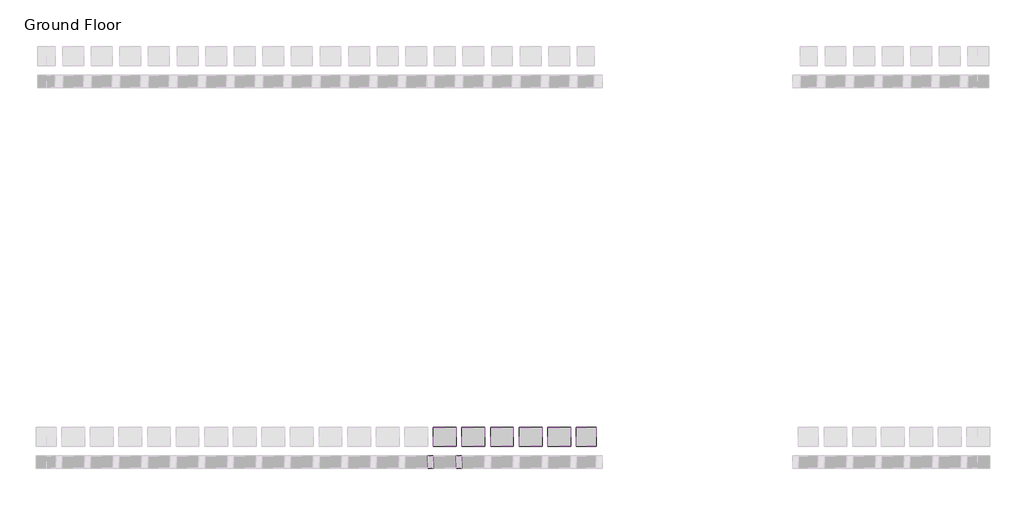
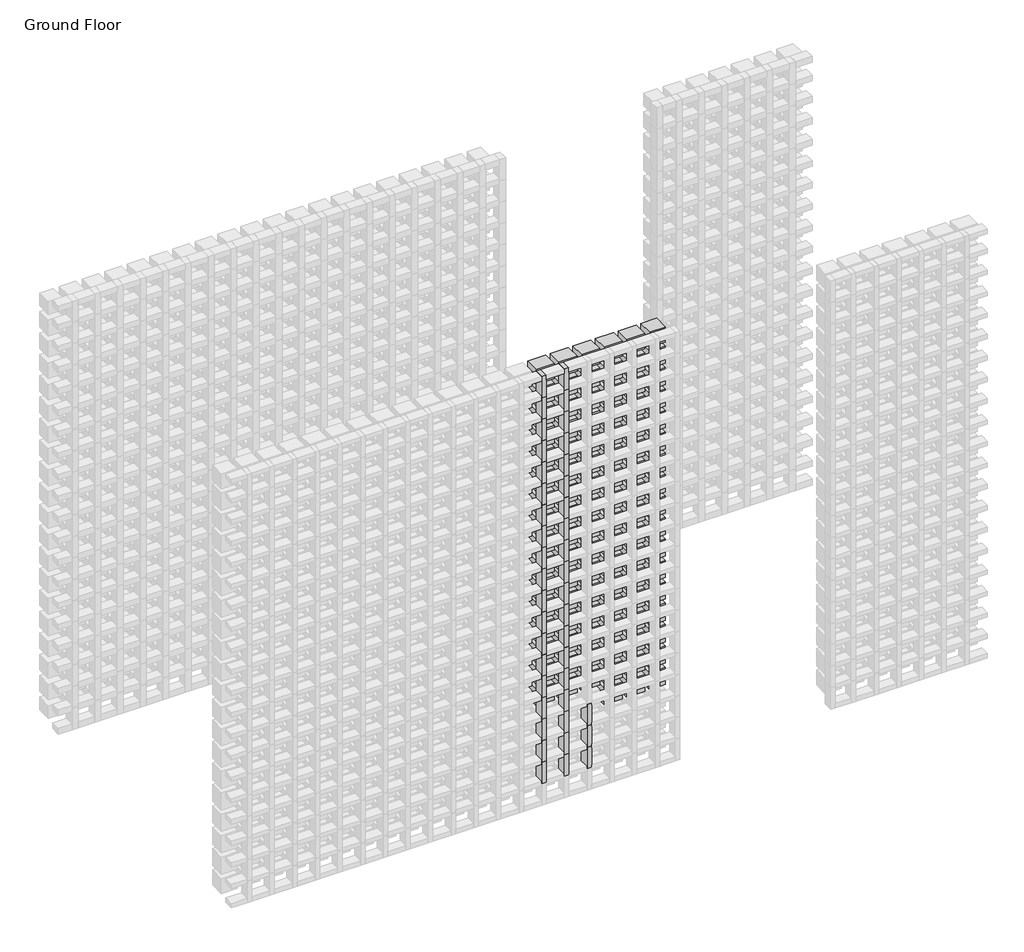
# One storey, part 71 of 350: 99 plates, 41 members.
"""IFC4 building model written with IfcOpenShell, lengths in millimetres."""

from ifc_helpers import new_model, si_unit, origin, place, context, project, spatial, transform, mapped, element, save
from components import rectangular_mullion_5b501421, empty_system_panel_empty_a57e421f, empty_system_panel_empty_fe50b430, empty_system_panel_empty_3353a095, empty_system_panel_empty_0cf761f0

model = new_model("IFC4")

# Units and contexts
model_context = context("Model", 3, world=origin())
ifc_project = project(units=[si_unit("LENGTHUNIT", "METRE", prefix="MILLI")], contexts=[model_context])

# Site, building, storey
site = spatial("IfcSite", under=ifc_project)
building = spatial("IfcBuilding", under=site)
storey = spatial("IfcBuildingStorey", under=building, Name="Ground Floor", Elevation=0.0)

# Members
placement = place(None, origin())
rectangular_mullion_shape = rectangular_mullion_5b501421(model_context)
element("IfcMember", 1, ObjectType="Rectangular Mullion : Batten_Timber_Modinex_Austratus_Grid_Fascia_30x65_Hemlock", at=placement, inside=storey, context=model_context, shape_type="MappedRepresentation", body=[
    mapped(rectangular_mullion_shape, transform((12016.4361642, 38968.2978302, 150.0), x_axis=(1.0, 0.0, 0.0), y_axis=(0.0, -1.0, 0.0), z_axis=(0.0, 0.0, -1.0))),
])
element("IfcMember", 2, ObjectType="Rectangular Mullion : Batten_Timber_Modinex_Austratus_Grid_Fascia_30x65_Hemlock", at=placement, inside=storey, context=model_context, shape_type="MappedRepresentation", body=[
    mapped(rectangular_mullion_shape, transform((12016.4361642, 38968.2978302, 300.0), x_axis=(1.0, 0.0, 0.0), y_axis=(0.0, -1.0, 0.0), z_axis=(0.0, 0.0, -1.0))),
])
element("IfcMember", 3, ObjectType="Rectangular Mullion : Batten_Timber_Modinex_Austratus_Grid_Fascia_30x65_Hemlock", at=placement, inside=storey, context=model_context, shape_type="MappedRepresentation", body=[
    mapped(rectangular_mullion_shape, transform((12016.4361642, 38968.2978302, 450.0), x_axis=(1.0, 0.0, 0.0), y_axis=(0.0, -1.0, 0.0), z_axis=(0.0, 0.0, -1.0))),
])
element("IfcMember", 4, ObjectType="Rectangular Mullion : Batten_Timber_Modinex_Austratus_Grid_Fascia_30x65_Hemlock", at=placement, inside=storey, context=model_context, shape_type="MappedRepresentation", body=[
    mapped(rectangular_mullion_shape, transform((12016.4361642, 38968.2978302, 600.0), x_axis=(1.0, 0.0, 0.0), y_axis=(0.0, -1.0, 0.0), z_axis=(0.0, 0.0, -1.0))),
])
element("IfcMember", 5, ObjectType="Rectangular Mullion : Batten_Timber_Modinex_Austratus_Grid_Fascia_30x65_Hemlock", at=placement, inside=storey, context=model_context, shape_type="MappedRepresentation", body=[
    mapped(rectangular_mullion_shape, transform((12016.4361642, 38968.2978302, 750.0), x_axis=(1.0, 0.0, 0.0), y_axis=(0.0, -1.0, 0.0), z_axis=(0.0, 0.0, -1.0))),
])
element("IfcMember", 6, ObjectType="Rectangular Mullion : Batten_Timber_Modinex_Austratus_Grid_Fascia_30x65_Hemlock", at=placement, inside=storey, context=model_context, shape_type="MappedRepresentation", body=[
    mapped(rectangular_mullion_shape, transform((12016.4361642, 38968.2978302, 900.0), x_axis=(1.0, 0.0, 0.0), y_axis=(0.0, -1.0, 0.0), z_axis=(0.0, 0.0, -1.0))),
])
element("IfcMember", 7, ObjectType="Rectangular Mullion : Batten_Timber_Modinex_Austratus_Grid_Fascia_30x65_Hemlock", at=placement, inside=storey, context=model_context, shape_type="MappedRepresentation", body=[
    mapped(rectangular_mullion_shape, transform((12016.4361642, 38968.2978302, 1050.0), x_axis=(1.0, 0.0, 0.0), y_axis=(0.0, -1.0, 0.0), z_axis=(0.0, 0.0, -1.0))),
])
element("IfcMember", 8, ObjectType="Rectangular Mullion : Batten_Timber_Modinex_Austratus_Grid_Fascia_30x65_Hemlock", at=placement, inside=storey, context=model_context, shape_type="MappedRepresentation", body=[
    mapped(rectangular_mullion_shape, transform((12016.4361642, 38968.2978302, 1200.0), x_axis=(1.0, 0.0, 0.0), y_axis=(0.0, -1.0, 0.0), z_axis=(0.0, 0.0, -1.0))),
])
element("IfcMember", 9, ObjectType="Rectangular Mullion : Batten_Timber_Modinex_Austratus_Grid_Fascia_30x65_Hemlock", at=placement, inside=storey, context=model_context, shape_type="MappedRepresentation", body=[
    mapped(rectangular_mullion_shape, transform((12016.4361642, 38968.2978302, 1350.0), x_axis=(1.0, 0.0, 0.0), y_axis=(0.0, -1.0, 0.0), z_axis=(0.0, 0.0, -1.0))),
])
element("IfcMember", 10, ObjectType="Rectangular Mullion : Batten_Timber_Modinex_Austratus_Grid_Fascia_30x65_Hemlock", at=placement, inside=storey, context=model_context, shape_type="MappedRepresentation", body=[
    mapped(rectangular_mullion_shape, transform((12016.4361642, 38968.2978302, 1500.0), x_axis=(1.0, 0.0, 0.0), y_axis=(0.0, -1.0, 0.0), z_axis=(0.0, 0.0, -1.0))),
])
element("IfcMember", 11, ObjectType="Rectangular Mullion : Batten_Timber_Modinex_Austratus_Grid_Fascia_30x65_Hemlock", at=placement, inside=storey, context=model_context, shape_type="MappedRepresentation", body=[
    mapped(rectangular_mullion_shape, transform((12016.4361642, 38968.2978302, 1650.0), x_axis=(1.0, 0.0, 0.0), y_axis=(0.0, -1.0, 0.0), z_axis=(0.0, 0.0, -1.0))),
])
element("IfcMember", 12, ObjectType="Rectangular Mullion : Batten_Timber_Modinex_Austratus_Grid_Fascia_30x65_Hemlock", at=placement, inside=storey, context=model_context, shape_type="MappedRepresentation", body=[
    mapped(rectangular_mullion_shape, transform((12016.4361642, 38968.2978302, 1800.0), x_axis=(1.0, 0.0, 0.0), y_axis=(0.0, -1.0, 0.0), z_axis=(0.0, 0.0, -1.0))),
])
element("IfcMember", 13, ObjectType="Rectangular Mullion : Batten_Timber_Modinex_Austratus_Grid_Fascia_30x65_Hemlock", at=placement, inside=storey, context=model_context, shape_type="MappedRepresentation", body=[
    mapped(rectangular_mullion_shape, transform((12016.4361642, 38968.2978302, 1950.0), x_axis=(1.0, 0.0, 0.0), y_axis=(0.0, -1.0, 0.0), z_axis=(0.0, 0.0, -1.0))),
])
element("IfcMember", 14, ObjectType="Rectangular Mullion : Batten_Timber_Modinex_Austratus_Grid_Fascia_30x65_Hemlock", at=placement, inside=storey, context=model_context, shape_type="MappedRepresentation", body=[
    mapped(rectangular_mullion_shape, transform((12016.4361642, 38968.2978302, 2100.0), x_axis=(1.0, 0.0, 0.0), y_axis=(0.0, -1.0, 0.0), z_axis=(0.0, 0.0, -1.0))),
])
element("IfcMember", 15, ObjectType="Rectangular Mullion : Batten_Timber_Modinex_Austratus_Grid_Fascia_30x65_Hemlock", at=placement, inside=storey, context=model_context, shape_type="MappedRepresentation", body=[
    mapped(rectangular_mullion_shape, transform((12016.4361642, 38968.2978302, 2250.0), x_axis=(1.0, 0.0, 0.0), y_axis=(0.0, -1.0, 0.0), z_axis=(0.0, 0.0, -1.0))),
])
element("IfcMember", 16, ObjectType="Rectangular Mullion : Batten_Timber_Modinex_Austratus_Grid_Fascia_30x65_Hemlock", at=placement, inside=storey, context=model_context, shape_type="MappedRepresentation", body=[
    mapped(rectangular_mullion_shape, transform((12016.4361642, 38968.2978302, 2400.0), x_axis=(1.0, 0.0, 0.0), y_axis=(0.0, -1.0, 0.0), z_axis=(0.0, 0.0, -1.0))),
])
element("IfcMember", 17, ObjectType="Rectangular Mullion : Batten_Timber_Modinex_Austratus_Grid_Fascia_30x65_Hemlock", at=placement, inside=storey, context=model_context, shape_type="MappedRepresentation", body=[
    mapped(rectangular_mullion_shape, transform((12016.4361642, 38968.2978302, 2550.0), x_axis=(1.0, 0.0, 0.0), y_axis=(0.0, -1.0, 0.0), z_axis=(0.0, 0.0, -1.0))),
])
element("IfcMember", 18, ObjectType="Rectangular Mullion : Batten_Timber_Modinex_Austratus_Grid_Fascia_30x65_Hemlock", at=placement, inside=storey, context=model_context, shape_type="MappedRepresentation", body=[
    mapped(rectangular_mullion_shape, transform((12016.4361642, 38968.2978302, 2700.0), x_axis=(1.0, 0.0, 0.0), y_axis=(0.0, -1.0, 0.0), z_axis=(0.0, 0.0, -1.0))),
])
element("IfcMember", 19, ObjectType="Rectangular Mullion : Batten_Timber_Modinex_Austratus_Grid_Fascia_30x65_Hemlock", at=placement, inside=storey, context=model_context, shape_type="MappedRepresentation", body=[
    mapped(rectangular_mullion_shape, transform((12166.4361642, 38968.2978302, 150.0), x_axis=(1.0, 0.0, 0.0), y_axis=(0.0, -1.0, 0.0), z_axis=(0.0, 0.0, -1.0))),
])
element("IfcMember", 20, ObjectType="Rectangular Mullion : Batten_Timber_Modinex_Austratus_Grid_Fascia_30x65_Hemlock", at=placement, inside=storey, context=model_context, shape_type="MappedRepresentation", body=[
    mapped(rectangular_mullion_shape, transform((12166.4361642, 38968.2978302, 300.0), x_axis=(1.0, 0.0, 0.0), y_axis=(0.0, -1.0, 0.0), z_axis=(0.0, 0.0, -1.0))),
])
element("IfcMember", 21, ObjectType="Rectangular Mullion : Batten_Timber_Modinex_Austratus_Grid_Fascia_30x65_Hemlock", at=placement, inside=storey, context=model_context, shape_type="MappedRepresentation", body=[
    mapped(rectangular_mullion_shape, transform((12166.4361642, 38968.2978302, 450.0), x_axis=(1.0, 0.0, 0.0), y_axis=(0.0, -1.0, 0.0), z_axis=(0.0, 0.0, -1.0))),
])
element("IfcMember", 22, ObjectType="Rectangular Mullion : Batten_Timber_Modinex_Austratus_Grid_Fascia_30x65_Hemlock", at=placement, inside=storey, context=model_context, shape_type="MappedRepresentation", body=[
    mapped(rectangular_mullion_shape, transform((12166.4361642, 38968.2978302, 600.0), x_axis=(1.0, 0.0, 0.0), y_axis=(0.0, -1.0, 0.0), z_axis=(0.0, 0.0, -1.0))),
])
element("IfcMember", 23, ObjectType="Rectangular Mullion : Batten_Timber_Modinex_Austratus_Grid_Fascia_30x65_Hemlock", at=placement, inside=storey, context=model_context, shape_type="MappedRepresentation", body=[
    mapped(rectangular_mullion_shape, transform((12166.4361642, 38968.2978302, 750.0), x_axis=(1.0, 0.0, 0.0), y_axis=(0.0, -1.0, 0.0), z_axis=(0.0, 0.0, -1.0))),
])
element("IfcMember", 24, ObjectType="Rectangular Mullion : Batten_Timber_Modinex_Austratus_Grid_Fascia_30x65_Hemlock", at=placement, inside=storey, context=model_context, shape_type="MappedRepresentation", body=[
    mapped(rectangular_mullion_shape, transform((12166.4361642, 38968.2978302, 900.0), x_axis=(1.0, 0.0, 0.0), y_axis=(0.0, -1.0, 0.0), z_axis=(0.0, 0.0, -1.0))),
])
element("IfcMember", 25, ObjectType="Rectangular Mullion : Batten_Timber_Modinex_Austratus_Grid_Fascia_30x65_Hemlock", at=placement, inside=storey, context=model_context, shape_type="MappedRepresentation", body=[
    mapped(rectangular_mullion_shape, transform((12166.4361642, 38968.2978302, 1050.0), x_axis=(1.0, 0.0, 0.0), y_axis=(0.0, -1.0, 0.0), z_axis=(0.0, 0.0, -1.0))),
])
element("IfcMember", 26, ObjectType="Rectangular Mullion : Batten_Timber_Modinex_Austratus_Grid_Fascia_30x65_Hemlock", at=placement, inside=storey, context=model_context, shape_type="MappedRepresentation", body=[
    mapped(rectangular_mullion_shape, transform((12166.4361642, 38968.2978302, 1200.0), x_axis=(1.0, 0.0, 0.0), y_axis=(0.0, -1.0, 0.0), z_axis=(0.0, 0.0, -1.0))),
])
element("IfcMember", 27, ObjectType="Rectangular Mullion : Batten_Timber_Modinex_Austratus_Grid_Fascia_30x65_Hemlock", at=placement, inside=storey, context=model_context, shape_type="MappedRepresentation", body=[
    mapped(rectangular_mullion_shape, transform((12166.4361642, 38968.2978302, 1350.0), x_axis=(1.0, 0.0, 0.0), y_axis=(0.0, -1.0, 0.0), z_axis=(0.0, 0.0, -1.0))),
])
element("IfcMember", 28, ObjectType="Rectangular Mullion : Batten_Timber_Modinex_Austratus_Grid_Fascia_30x65_Hemlock", at=placement, inside=storey, context=model_context, shape_type="MappedRepresentation", body=[
    mapped(rectangular_mullion_shape, transform((12166.4361642, 38968.2978302, 1500.0), x_axis=(1.0, 0.0, 0.0), y_axis=(0.0, -1.0, 0.0), z_axis=(0.0, 0.0, -1.0))),
])
element("IfcMember", 29, ObjectType="Rectangular Mullion : Batten_Timber_Modinex_Austratus_Grid_Fascia_30x65_Hemlock", at=placement, inside=storey, context=model_context, shape_type="MappedRepresentation", body=[
    mapped(rectangular_mullion_shape, transform((12166.4361642, 38968.2978302, 1650.0), x_axis=(1.0, 0.0, 0.0), y_axis=(0.0, -1.0, 0.0), z_axis=(0.0, 0.0, -1.0))),
])
element("IfcMember", 30, ObjectType="Rectangular Mullion : Batten_Timber_Modinex_Austratus_Grid_Fascia_30x65_Hemlock", at=placement, inside=storey, context=model_context, shape_type="MappedRepresentation", body=[
    mapped(rectangular_mullion_shape, transform((12166.4361642, 38968.2978302, 1800.0), x_axis=(1.0, 0.0, 0.0), y_axis=(0.0, -1.0, 0.0), z_axis=(0.0, 0.0, -1.0))),
])
element("IfcMember", 31, ObjectType="Rectangular Mullion : Batten_Timber_Modinex_Austratus_Grid_Fascia_30x65_Hemlock", at=placement, inside=storey, context=model_context, shape_type="MappedRepresentation", body=[
    mapped(rectangular_mullion_shape, transform((12166.4361642, 38968.2978302, 1950.0), x_axis=(1.0, 0.0, 0.0), y_axis=(0.0, -1.0, 0.0), z_axis=(0.0, 0.0, -1.0))),
])
element("IfcMember", 32, ObjectType="Rectangular Mullion : Batten_Timber_Modinex_Austratus_Grid_Fascia_30x65_Hemlock", at=placement, inside=storey, context=model_context, shape_type="MappedRepresentation", body=[
    mapped(rectangular_mullion_shape, transform((12166.4361642, 38968.2978302, 2100.0), x_axis=(1.0, 0.0, 0.0), y_axis=(0.0, -1.0, 0.0), z_axis=(0.0, 0.0, -1.0))),
])
element("IfcMember", 33, ObjectType="Rectangular Mullion : Batten_Timber_Modinex_Austratus_Grid_Fascia_30x65_Hemlock", at=placement, inside=storey, context=model_context, shape_type="MappedRepresentation", body=[
    mapped(rectangular_mullion_shape, transform((12166.4361642, 38968.2978302, 2250.0), x_axis=(1.0, 0.0, 0.0), y_axis=(0.0, -1.0, 0.0), z_axis=(0.0, 0.0, -1.0))),
])
element("IfcMember", 34, ObjectType="Rectangular Mullion : Batten_Timber_Modinex_Austratus_Grid_Fascia_30x65_Hemlock", at=placement, inside=storey, context=model_context, shape_type="MappedRepresentation", body=[
    mapped(rectangular_mullion_shape, transform((12166.4361642, 38968.2978302, 2400.0), x_axis=(1.0, 0.0, 0.0), y_axis=(0.0, -1.0, 0.0), z_axis=(0.0, 0.0, -1.0))),
])
element("IfcMember", 35, ObjectType="Rectangular Mullion : Batten_Timber_Modinex_Austratus_Grid_Fascia_30x65_Hemlock", at=placement, inside=storey, context=model_context, shape_type="MappedRepresentation", body=[
    mapped(rectangular_mullion_shape, transform((12166.4361642, 38968.2978302, 2550.0), x_axis=(1.0, 0.0, 0.0), y_axis=(0.0, -1.0, 0.0), z_axis=(0.0, 0.0, -1.0))),
])
element("IfcMember", 36, ObjectType="Rectangular Mullion : Batten_Timber_Modinex_Austratus_Grid_Fascia_30x65_Hemlock", at=placement, inside=storey, context=model_context, shape_type="MappedRepresentation", body=[
    mapped(rectangular_mullion_shape, transform((12166.4361642, 38968.2978302, 2700.0), x_axis=(1.0, 0.0, 0.0), y_axis=(0.0, -1.0, 0.0), z_axis=(0.0, 0.0, -1.0))),
])
element("IfcMember", 37, ObjectType="Rectangular Mullion : Batten_Timber_Modinex_Austratus_Grid_Fascia_30x65_Hemlock", at=placement, inside=storey, context=model_context, shape_type="MappedRepresentation", body=[
    mapped(rectangular_mullion_shape, transform((12316.4361642, 38968.2978302, 150.0), x_axis=(1.0, 0.0, 0.0), y_axis=(0.0, -1.0, 0.0), z_axis=(0.0, 0.0, -1.0))),
])
element("IfcMember", 38, ObjectType="Rectangular Mullion : Batten_Timber_Modinex_Austratus_Grid_Fascia_30x65_Hemlock", at=placement, inside=storey, context=model_context, shape_type="MappedRepresentation", body=[
    mapped(rectangular_mullion_shape, transform((12316.4361642, 38968.2978302, 300.0), x_axis=(1.0, 0.0, 0.0), y_axis=(0.0, -1.0, 0.0), z_axis=(0.0, 0.0, -1.0))),
])
element("IfcMember", 39, ObjectType="Rectangular Mullion : Batten_Timber_Modinex_Austratus_Grid_Fascia_30x65_Hemlock", at=placement, inside=storey, context=model_context, shape_type="MappedRepresentation", body=[
    mapped(rectangular_mullion_shape, transform((12316.4361642, 38968.2978302, 450.0), x_axis=(1.0, 0.0, 0.0), y_axis=(0.0, -1.0, 0.0), z_axis=(0.0, 0.0, -1.0))),
])
element("IfcMember", 40, ObjectType="Rectangular Mullion : Batten_Timber_Modinex_Austratus_Grid_Fascia_30x65_Hemlock", at=placement, inside=storey, context=model_context, shape_type="MappedRepresentation", body=[
    mapped(rectangular_mullion_shape, transform((12016.4361642, 38968.2978302, 2850.0), x_axis=(1.0, 0.0, 0.0), y_axis=(0.0, -1.0, 0.0), z_axis=(0.0, 0.0, -1.0))),
])
element("IfcMember", 41, ObjectType="Rectangular Mullion : Batten_Timber_Modinex_Austratus_Grid_Fascia_30x65_Hemlock", at=placement, inside=storey, context=model_context, shape_type="MappedRepresentation", body=[
    mapped(rectangular_mullion_shape, transform((12166.4361642, 38968.2978302, 2850.0), x_axis=(1.0, 0.0, 0.0), y_axis=(0.0, -1.0, 0.0), z_axis=(0.0, 0.0, -1.0))),
])

# Plates
empty_system_panel_empty_shape = empty_system_panel_empty_a57e421f(model_context)
element("IfcPlate", 42, ObjectType="Empty System Panel : Empty", at=placement, inside=storey, context=model_context, shape_type="MappedRepresentation", body=[
    mapped(empty_system_panel_empty_shape, transform((12541.4361642, 38968.2978302, 465.0), x_axis=(1.0, 0.0, 0.0), y_axis=(0.0, 1.0, 0.0), z_axis=(0.0, 0.0, 1.0))),
])
element("IfcPlate", 43, ObjectType="Empty System Panel : Empty", at=placement, inside=storey, context=model_context, shape_type="MappedRepresentation", body=[
    mapped(empty_system_panel_empty_shape, transform((12691.4361642, 38968.2978302, 465.0), x_axis=(1.0, 0.0, 0.0), y_axis=(0.0, 1.0, 0.0), z_axis=(0.0, 0.0, 1.0))),
])
element("IfcPlate", 44, ObjectType="Empty System Panel : Empty", at=placement, inside=storey, context=model_context, shape_type="MappedRepresentation", body=[
    mapped(empty_system_panel_empty_shape, transform((12091.4361642, 38968.2978302, 615.0), x_axis=(1.0, 0.0, 0.0), y_axis=(0.0, 1.0, 0.0), z_axis=(0.0, 0.0, 1.0))),
])
element("IfcPlate", 45, ObjectType="Empty System Panel : Empty", at=placement, inside=storey, context=model_context, shape_type="MappedRepresentation", body=[
    mapped(empty_system_panel_empty_shape, transform((12241.4361642, 38968.2978302, 615.0), x_axis=(1.0, 0.0, 0.0), y_axis=(0.0, 1.0, 0.0), z_axis=(0.0, 0.0, 1.0))),
])
element("IfcPlate", 46, ObjectType="Empty System Panel : Empty", at=placement, inside=storey, context=model_context, shape_type="MappedRepresentation", body=[
    mapped(empty_system_panel_empty_shape, transform((12391.4361642, 38968.2978302, 615.0), x_axis=(1.0, 0.0, 0.0), y_axis=(0.0, 1.0, 0.0), z_axis=(0.0, 0.0, 1.0))),
])
element("IfcPlate", 47, ObjectType="Empty System Panel : Empty", at=placement, inside=storey, context=model_context, shape_type="MappedRepresentation", body=[
    mapped(empty_system_panel_empty_shape, transform((12541.4361642, 38968.2978302, 615.0), x_axis=(1.0, 0.0, 0.0), y_axis=(0.0, 1.0, 0.0), z_axis=(0.0, 0.0, 1.0))),
])
element("IfcPlate", 48, ObjectType="Empty System Panel : Empty", at=placement, inside=storey, context=model_context, shape_type="MappedRepresentation", body=[
    mapped(empty_system_panel_empty_shape, transform((12691.4361642, 38968.2978302, 615.0), x_axis=(1.0, 0.0, 0.0), y_axis=(0.0, 1.0, 0.0), z_axis=(0.0, 0.0, 1.0))),
])
element("IfcPlate", 49, ObjectType="Empty System Panel : Empty", at=placement, inside=storey, context=model_context, shape_type="MappedRepresentation", body=[
    mapped(empty_system_panel_empty_shape, transform((12091.4361642, 38968.2978302, 765.0), x_axis=(1.0, 0.0, 0.0), y_axis=(0.0, 1.0, 0.0), z_axis=(0.0, 0.0, 1.0))),
])
element("IfcPlate", 50, ObjectType="Empty System Panel : Empty", at=placement, inside=storey, context=model_context, shape_type="MappedRepresentation", body=[
    mapped(empty_system_panel_empty_shape, transform((12241.4361642, 38968.2978302, 765.0), x_axis=(1.0, 0.0, 0.0), y_axis=(0.0, 1.0, 0.0), z_axis=(0.0, 0.0, 1.0))),
])
element("IfcPlate", 51, ObjectType="Empty System Panel : Empty", at=placement, inside=storey, context=model_context, shape_type="MappedRepresentation", body=[
    mapped(empty_system_panel_empty_shape, transform((12391.4361642, 38968.2978302, 765.0), x_axis=(1.0, 0.0, 0.0), y_axis=(0.0, 1.0, 0.0), z_axis=(0.0, 0.0, 1.0))),
])
element("IfcPlate", 52, ObjectType="Empty System Panel : Empty", at=placement, inside=storey, context=model_context, shape_type="MappedRepresentation", body=[
    mapped(empty_system_panel_empty_shape, transform((12541.4361642, 38968.2978302, 765.0), x_axis=(1.0, 0.0, 0.0), y_axis=(0.0, 1.0, 0.0), z_axis=(0.0, 0.0, 1.0))),
])
element("IfcPlate", 53, ObjectType="Empty System Panel : Empty", at=placement, inside=storey, context=model_context, shape_type="MappedRepresentation", body=[
    mapped(empty_system_panel_empty_shape, transform((12691.4361642, 38968.2978302, 765.0), x_axis=(1.0, 0.0, 0.0), y_axis=(0.0, 1.0, 0.0), z_axis=(0.0, 0.0, 1.0))),
])
element("IfcPlate", 54, ObjectType="Empty System Panel : Empty", at=placement, inside=storey, context=model_context, shape_type="MappedRepresentation", body=[
    mapped(empty_system_panel_empty_shape, transform((12091.4361642, 38968.2978302, 915.0), x_axis=(1.0, 0.0, 0.0), y_axis=(0.0, 1.0, 0.0), z_axis=(0.0, 0.0, 1.0))),
])
element("IfcPlate", 55, ObjectType="Empty System Panel : Empty", at=placement, inside=storey, context=model_context, shape_type="MappedRepresentation", body=[
    mapped(empty_system_panel_empty_shape, transform((12241.4361642, 38968.2978302, 915.0), x_axis=(1.0, 0.0, 0.0), y_axis=(0.0, 1.0, 0.0), z_axis=(0.0, 0.0, 1.0))),
])
element("IfcPlate", 56, ObjectType="Empty System Panel : Empty", at=placement, inside=storey, context=model_context, shape_type="MappedRepresentation", body=[
    mapped(empty_system_panel_empty_shape, transform((12391.4361642, 38968.2978302, 915.0), x_axis=(1.0, 0.0, 0.0), y_axis=(0.0, 1.0, 0.0), z_axis=(0.0, 0.0, 1.0))),
])
element("IfcPlate", 57, ObjectType="Empty System Panel : Empty", at=placement, inside=storey, context=model_context, shape_type="MappedRepresentation", body=[
    mapped(empty_system_panel_empty_shape, transform((12541.4361642, 38968.2978302, 915.0), x_axis=(1.0, 0.0, 0.0), y_axis=(0.0, 1.0, 0.0), z_axis=(0.0, 0.0, 1.0))),
])
element("IfcPlate", 58, ObjectType="Empty System Panel : Empty", at=placement, inside=storey, context=model_context, shape_type="MappedRepresentation", body=[
    mapped(empty_system_panel_empty_shape, transform((12691.4361642, 38968.2978302, 915.0), x_axis=(1.0, 0.0, 0.0), y_axis=(0.0, 1.0, 0.0), z_axis=(0.0, 0.0, 1.0))),
])
element("IfcPlate", 59, ObjectType="Empty System Panel : Empty", at=placement, inside=storey, context=model_context, shape_type="MappedRepresentation", body=[
    mapped(empty_system_panel_empty_shape, transform((12091.4361642, 38968.2978302, 1065.0), x_axis=(1.0, 0.0, 0.0), y_axis=(0.0, 1.0, 0.0), z_axis=(0.0, 0.0, 1.0))),
])
element("IfcPlate", 60, ObjectType="Empty System Panel : Empty", at=placement, inside=storey, context=model_context, shape_type="MappedRepresentation", body=[
    mapped(empty_system_panel_empty_shape, transform((12241.4361642, 38968.2978302, 1065.0), x_axis=(1.0, 0.0, 0.0), y_axis=(0.0, 1.0, 0.0), z_axis=(0.0, 0.0, 1.0))),
])
element("IfcPlate", 61, ObjectType="Empty System Panel : Empty", at=placement, inside=storey, context=model_context, shape_type="MappedRepresentation", body=[
    mapped(empty_system_panel_empty_shape, transform((12391.4361642, 38968.2978302, 1065.0), x_axis=(1.0, 0.0, 0.0), y_axis=(0.0, 1.0, 0.0), z_axis=(0.0, 0.0, 1.0))),
])
element("IfcPlate", 62, ObjectType="Empty System Panel : Empty", at=placement, inside=storey, context=model_context, shape_type="MappedRepresentation", body=[
    mapped(empty_system_panel_empty_shape, transform((12541.4361642, 38968.2978302, 1065.0), x_axis=(1.0, 0.0, 0.0), y_axis=(0.0, 1.0, 0.0), z_axis=(0.0, 0.0, 1.0))),
])
element("IfcPlate", 63, ObjectType="Empty System Panel : Empty", at=placement, inside=storey, context=model_context, shape_type="MappedRepresentation", body=[
    mapped(empty_system_panel_empty_shape, transform((12691.4361642, 38968.2978302, 1065.0), x_axis=(1.0, 0.0, 0.0), y_axis=(0.0, 1.0, 0.0), z_axis=(0.0, 0.0, 1.0))),
])
element("IfcPlate", 64, ObjectType="Empty System Panel : Empty", at=placement, inside=storey, context=model_context, shape_type="MappedRepresentation", body=[
    mapped(empty_system_panel_empty_shape, transform((12091.4361642, 38968.2978302, 1215.0), x_axis=(1.0, 0.0, 0.0), y_axis=(0.0, 1.0, 0.0), z_axis=(0.0, 0.0, 1.0))),
])
element("IfcPlate", 65, ObjectType="Empty System Panel : Empty", at=placement, inside=storey, context=model_context, shape_type="MappedRepresentation", body=[
    mapped(empty_system_panel_empty_shape, transform((12241.4361642, 38968.2978302, 1215.0), x_axis=(1.0, 0.0, 0.0), y_axis=(0.0, 1.0, 0.0), z_axis=(0.0, 0.0, 1.0))),
])
element("IfcPlate", 66, ObjectType="Empty System Panel : Empty", at=placement, inside=storey, context=model_context, shape_type="MappedRepresentation", body=[
    mapped(empty_system_panel_empty_shape, transform((12391.4361642, 38968.2978302, 1215.0), x_axis=(1.0, 0.0, 0.0), y_axis=(0.0, 1.0, 0.0), z_axis=(0.0, 0.0, 1.0))),
])
element("IfcPlate", 67, ObjectType="Empty System Panel : Empty", at=placement, inside=storey, context=model_context, shape_type="MappedRepresentation", body=[
    mapped(empty_system_panel_empty_shape, transform((12541.4361642, 38968.2978302, 1215.0), x_axis=(1.0, 0.0, 0.0), y_axis=(0.0, 1.0, 0.0), z_axis=(0.0, 0.0, 1.0))),
])
element("IfcPlate", 68, ObjectType="Empty System Panel : Empty", at=placement, inside=storey, context=model_context, shape_type="MappedRepresentation", body=[
    mapped(empty_system_panel_empty_shape, transform((12691.4361642, 38968.2978302, 1215.0), x_axis=(1.0, 0.0, 0.0), y_axis=(0.0, 1.0, 0.0), z_axis=(0.0, 0.0, 1.0))),
])
element("IfcPlate", 69, ObjectType="Empty System Panel : Empty", at=placement, inside=storey, context=model_context, shape_type="MappedRepresentation", body=[
    mapped(empty_system_panel_empty_shape, transform((12091.4361642, 38968.2978302, 1365.0), x_axis=(1.0, 0.0, 0.0), y_axis=(0.0, 1.0, 0.0), z_axis=(0.0, 0.0, 1.0))),
])
element("IfcPlate", 70, ObjectType="Empty System Panel : Empty", at=placement, inside=storey, context=model_context, shape_type="MappedRepresentation", body=[
    mapped(empty_system_panel_empty_shape, transform((12241.4361642, 38968.2978302, 1365.0), x_axis=(1.0, 0.0, 0.0), y_axis=(0.0, 1.0, 0.0), z_axis=(0.0, 0.0, 1.0))),
])
element("IfcPlate", 71, ObjectType="Empty System Panel : Empty", at=placement, inside=storey, context=model_context, shape_type="MappedRepresentation", body=[
    mapped(empty_system_panel_empty_shape, transform((12391.4361642, 38968.2978302, 1365.0), x_axis=(1.0, 0.0, 0.0), y_axis=(0.0, 1.0, 0.0), z_axis=(0.0, 0.0, 1.0))),
])
element("IfcPlate", 72, ObjectType="Empty System Panel : Empty", at=placement, inside=storey, context=model_context, shape_type="MappedRepresentation", body=[
    mapped(empty_system_panel_empty_shape, transform((12541.4361642, 38968.2978302, 1365.0), x_axis=(1.0, 0.0, 0.0), y_axis=(0.0, 1.0, 0.0), z_axis=(0.0, 0.0, 1.0))),
])
element("IfcPlate", 73, ObjectType="Empty System Panel : Empty", at=placement, inside=storey, context=model_context, shape_type="MappedRepresentation", body=[
    mapped(empty_system_panel_empty_shape, transform((12691.4361642, 38968.2978302, 1365.0), x_axis=(1.0, 0.0, 0.0), y_axis=(0.0, 1.0, 0.0), z_axis=(0.0, 0.0, 1.0))),
])
element("IfcPlate", 74, ObjectType="Empty System Panel : Empty", at=placement, inside=storey, context=model_context, shape_type="MappedRepresentation", body=[
    mapped(empty_system_panel_empty_shape, transform((12091.4361642, 38968.2978302, 1515.0), x_axis=(1.0, 0.0, 0.0), y_axis=(0.0, 1.0, 0.0), z_axis=(0.0, 0.0, 1.0))),
])
element("IfcPlate", 75, ObjectType="Empty System Panel : Empty", at=placement, inside=storey, context=model_context, shape_type="MappedRepresentation", body=[
    mapped(empty_system_panel_empty_shape, transform((12241.4361642, 38968.2978302, 1515.0), x_axis=(1.0, 0.0, 0.0), y_axis=(0.0, 1.0, 0.0), z_axis=(0.0, 0.0, 1.0))),
])
element("IfcPlate", 76, ObjectType="Empty System Panel : Empty", at=placement, inside=storey, context=model_context, shape_type="MappedRepresentation", body=[
    mapped(empty_system_panel_empty_shape, transform((12391.4361642, 38968.2978302, 1515.0), x_axis=(1.0, 0.0, 0.0), y_axis=(0.0, 1.0, 0.0), z_axis=(0.0, 0.0, 1.0))),
])
element("IfcPlate", 77, ObjectType="Empty System Panel : Empty", at=placement, inside=storey, context=model_context, shape_type="MappedRepresentation", body=[
    mapped(empty_system_panel_empty_shape, transform((12541.4361642, 38968.2978302, 1515.0), x_axis=(1.0, 0.0, 0.0), y_axis=(0.0, 1.0, 0.0), z_axis=(0.0, 0.0, 1.0))),
])
element("IfcPlate", 78, ObjectType="Empty System Panel : Empty", at=placement, inside=storey, context=model_context, shape_type="MappedRepresentation", body=[
    mapped(empty_system_panel_empty_shape, transform((12691.4361642, 38968.2978302, 1515.0), x_axis=(1.0, 0.0, 0.0), y_axis=(0.0, 1.0, 0.0), z_axis=(0.0, 0.0, 1.0))),
])
element("IfcPlate", 79, ObjectType="Empty System Panel : Empty", at=placement, inside=storey, context=model_context, shape_type="MappedRepresentation", body=[
    mapped(empty_system_panel_empty_shape, transform((12091.4361642, 38968.2978302, 1665.0), x_axis=(1.0, 0.0, 0.0), y_axis=(0.0, 1.0, 0.0), z_axis=(0.0, 0.0, 1.0))),
])
element("IfcPlate", 80, ObjectType="Empty System Panel : Empty", at=placement, inside=storey, context=model_context, shape_type="MappedRepresentation", body=[
    mapped(empty_system_panel_empty_shape, transform((12241.4361642, 38968.2978302, 1665.0), x_axis=(1.0, 0.0, 0.0), y_axis=(0.0, 1.0, 0.0), z_axis=(0.0, 0.0, 1.0))),
])
element("IfcPlate", 81, ObjectType="Empty System Panel : Empty", at=placement, inside=storey, context=model_context, shape_type="MappedRepresentation", body=[
    mapped(empty_system_panel_empty_shape, transform((12391.4361642, 38968.2978302, 1665.0), x_axis=(1.0, 0.0, 0.0), y_axis=(0.0, 1.0, 0.0), z_axis=(0.0, 0.0, 1.0))),
])
element("IfcPlate", 82, ObjectType="Empty System Panel : Empty", at=placement, inside=storey, context=model_context, shape_type="MappedRepresentation", body=[
    mapped(empty_system_panel_empty_shape, transform((12541.4361642, 38968.2978302, 1665.0), x_axis=(1.0, 0.0, 0.0), y_axis=(0.0, 1.0, 0.0), z_axis=(0.0, 0.0, 1.0))),
])
element("IfcPlate", 83, ObjectType="Empty System Panel : Empty", at=placement, inside=storey, context=model_context, shape_type="MappedRepresentation", body=[
    mapped(empty_system_panel_empty_shape, transform((12691.4361642, 38968.2978302, 1665.0), x_axis=(1.0, 0.0, 0.0), y_axis=(0.0, 1.0, 0.0), z_axis=(0.0, 0.0, 1.0))),
])
element("IfcPlate", 84, ObjectType="Empty System Panel : Empty", at=placement, inside=storey, context=model_context, shape_type="MappedRepresentation", body=[
    mapped(empty_system_panel_empty_shape, transform((12091.4361642, 38968.2978302, 1815.0), x_axis=(1.0, 0.0, 0.0), y_axis=(0.0, 1.0, 0.0), z_axis=(0.0, 0.0, 1.0))),
])
element("IfcPlate", 85, ObjectType="Empty System Panel : Empty", at=placement, inside=storey, context=model_context, shape_type="MappedRepresentation", body=[
    mapped(empty_system_panel_empty_shape, transform((12241.4361642, 38968.2978302, 1815.0), x_axis=(1.0, 0.0, 0.0), y_axis=(0.0, 1.0, 0.0), z_axis=(0.0, 0.0, 1.0))),
])
element("IfcPlate", 86, ObjectType="Empty System Panel : Empty", at=placement, inside=storey, context=model_context, shape_type="MappedRepresentation", body=[
    mapped(empty_system_panel_empty_shape, transform((12391.4361642, 38968.2978302, 1815.0), x_axis=(1.0, 0.0, 0.0), y_axis=(0.0, 1.0, 0.0), z_axis=(0.0, 0.0, 1.0))),
])
element("IfcPlate", 87, ObjectType="Empty System Panel : Empty", at=placement, inside=storey, context=model_context, shape_type="MappedRepresentation", body=[
    mapped(empty_system_panel_empty_shape, transform((12541.4361642, 38968.2978302, 1815.0), x_axis=(1.0, 0.0, 0.0), y_axis=(0.0, 1.0, 0.0), z_axis=(0.0, 0.0, 1.0))),
])
element("IfcPlate", 88, ObjectType="Empty System Panel : Empty", at=placement, inside=storey, context=model_context, shape_type="MappedRepresentation", body=[
    mapped(empty_system_panel_empty_shape, transform((12691.4361642, 38968.2978302, 1815.0), x_axis=(1.0, 0.0, 0.0), y_axis=(0.0, 1.0, 0.0), z_axis=(0.0, 0.0, 1.0))),
])
element("IfcPlate", 89, ObjectType="Empty System Panel : Empty", at=placement, inside=storey, context=model_context, shape_type="MappedRepresentation", body=[
    mapped(empty_system_panel_empty_shape, transform((12091.4361642, 38968.2978302, 1965.0), x_axis=(1.0, 0.0, 0.0), y_axis=(0.0, 1.0, 0.0), z_axis=(0.0, 0.0, 1.0))),
])
element("IfcPlate", 90, ObjectType="Empty System Panel : Empty", at=placement, inside=storey, context=model_context, shape_type="MappedRepresentation", body=[
    mapped(empty_system_panel_empty_shape, transform((12241.4361642, 38968.2978302, 1965.0), x_axis=(1.0, 0.0, 0.0), y_axis=(0.0, 1.0, 0.0), z_axis=(0.0, 0.0, 1.0))),
])
element("IfcPlate", 91, ObjectType="Empty System Panel : Empty", at=placement, inside=storey, context=model_context, shape_type="MappedRepresentation", body=[
    mapped(empty_system_panel_empty_shape, transform((12391.4361642, 38968.2978302, 1965.0), x_axis=(1.0, 0.0, 0.0), y_axis=(0.0, 1.0, 0.0), z_axis=(0.0, 0.0, 1.0))),
])
element("IfcPlate", 92, ObjectType="Empty System Panel : Empty", at=placement, inside=storey, context=model_context, shape_type="MappedRepresentation", body=[
    mapped(empty_system_panel_empty_shape, transform((12541.4361642, 38968.2978302, 1965.0), x_axis=(1.0, 0.0, 0.0), y_axis=(0.0, 1.0, 0.0), z_axis=(0.0, 0.0, 1.0))),
])
element("IfcPlate", 93, ObjectType="Empty System Panel : Empty", at=placement, inside=storey, context=model_context, shape_type="MappedRepresentation", body=[
    mapped(empty_system_panel_empty_shape, transform((12691.4361642, 38968.2978302, 1965.0), x_axis=(1.0, 0.0, 0.0), y_axis=(0.0, 1.0, 0.0), z_axis=(0.0, 0.0, 1.0))),
])
element("IfcPlate", 94, ObjectType="Empty System Panel : Empty", at=placement, inside=storey, context=model_context, shape_type="MappedRepresentation", body=[
    mapped(empty_system_panel_empty_shape, transform((12091.4361642, 38968.2978302, 2115.0), x_axis=(1.0, 0.0, 0.0), y_axis=(0.0, 1.0, 0.0), z_axis=(0.0, 0.0, 1.0))),
])
element("IfcPlate", 95, ObjectType="Empty System Panel : Empty", at=placement, inside=storey, context=model_context, shape_type="MappedRepresentation", body=[
    mapped(empty_system_panel_empty_shape, transform((12241.4361642, 38968.2978302, 2115.0), x_axis=(1.0, 0.0, 0.0), y_axis=(0.0, 1.0, 0.0), z_axis=(0.0, 0.0, 1.0))),
])
element("IfcPlate", 96, ObjectType="Empty System Panel : Empty", at=placement, inside=storey, context=model_context, shape_type="MappedRepresentation", body=[
    mapped(empty_system_panel_empty_shape, transform((12391.4361642, 38968.2978302, 2115.0), x_axis=(1.0, 0.0, 0.0), y_axis=(0.0, 1.0, 0.0), z_axis=(0.0, 0.0, 1.0))),
])
element("IfcPlate", 97, ObjectType="Empty System Panel : Empty", at=placement, inside=storey, context=model_context, shape_type="MappedRepresentation", body=[
    mapped(empty_system_panel_empty_shape, transform((12541.4361642, 38968.2978302, 2115.0), x_axis=(1.0, 0.0, 0.0), y_axis=(0.0, 1.0, 0.0), z_axis=(0.0, 0.0, 1.0))),
])
element("IfcPlate", 98, ObjectType="Empty System Panel : Empty", at=placement, inside=storey, context=model_context, shape_type="MappedRepresentation", body=[
    mapped(empty_system_panel_empty_shape, transform((12691.4361642, 38968.2978302, 2115.0), x_axis=(1.0, 0.0, 0.0), y_axis=(0.0, 1.0, 0.0), z_axis=(0.0, 0.0, 1.0))),
])
element("IfcPlate", 99, ObjectType="Empty System Panel : Empty", at=placement, inside=storey, context=model_context, shape_type="MappedRepresentation", body=[
    mapped(empty_system_panel_empty_shape, transform((12091.4361642, 38968.2978302, 2265.0), x_axis=(1.0, 0.0, 0.0), y_axis=(0.0, 1.0, 0.0), z_axis=(0.0, 0.0, 1.0))),
])
element("IfcPlate", 100, ObjectType="Empty System Panel : Empty", at=placement, inside=storey, context=model_context, shape_type="MappedRepresentation", body=[
    mapped(empty_system_panel_empty_shape, transform((12241.4361642, 38968.2978302, 2265.0), x_axis=(1.0, 0.0, 0.0), y_axis=(0.0, 1.0, 0.0), z_axis=(0.0, 0.0, 1.0))),
])
element("IfcPlate", 101, ObjectType="Empty System Panel : Empty", at=placement, inside=storey, context=model_context, shape_type="MappedRepresentation", body=[
    mapped(empty_system_panel_empty_shape, transform((12391.4361642, 38968.2978302, 2265.0), x_axis=(1.0, 0.0, 0.0), y_axis=(0.0, 1.0, 0.0), z_axis=(0.0, 0.0, 1.0))),
])
element("IfcPlate", 102, ObjectType="Empty System Panel : Empty", at=placement, inside=storey, context=model_context, shape_type="MappedRepresentation", body=[
    mapped(empty_system_panel_empty_shape, transform((12541.4361642, 38968.2978302, 2265.0), x_axis=(1.0, 0.0, 0.0), y_axis=(0.0, 1.0, 0.0), z_axis=(0.0, 0.0, 1.0))),
])
element("IfcPlate", 103, ObjectType="Empty System Panel : Empty", at=placement, inside=storey, context=model_context, shape_type="MappedRepresentation", body=[
    mapped(empty_system_panel_empty_shape, transform((12691.4361642, 38968.2978302, 2265.0), x_axis=(1.0, 0.0, 0.0), y_axis=(0.0, 1.0, 0.0), z_axis=(0.0, 0.0, 1.0))),
])
element("IfcPlate", 104, ObjectType="Empty System Panel : Empty", at=placement, inside=storey, context=model_context, shape_type="MappedRepresentation", body=[
    mapped(empty_system_panel_empty_shape, transform((12091.4361642, 38968.2978302, 2415.0), x_axis=(1.0, 0.0, 0.0), y_axis=(0.0, 1.0, 0.0), z_axis=(0.0, 0.0, 1.0))),
])
element("IfcPlate", 105, ObjectType="Empty System Panel : Empty", at=placement, inside=storey, context=model_context, shape_type="MappedRepresentation", body=[
    mapped(empty_system_panel_empty_shape, transform((12241.4361642, 38968.2978302, 2415.0), x_axis=(1.0, 0.0, 0.0), y_axis=(0.0, 1.0, 0.0), z_axis=(0.0, 0.0, 1.0))),
])
element("IfcPlate", 106, ObjectType="Empty System Panel : Empty", at=placement, inside=storey, context=model_context, shape_type="MappedRepresentation", body=[
    mapped(empty_system_panel_empty_shape, transform((12391.4361642, 38968.2978302, 2415.0), x_axis=(1.0, 0.0, 0.0), y_axis=(0.0, 1.0, 0.0), z_axis=(0.0, 0.0, 1.0))),
])
element("IfcPlate", 107, ObjectType="Empty System Panel : Empty", at=placement, inside=storey, context=model_context, shape_type="MappedRepresentation", body=[
    mapped(empty_system_panel_empty_shape, transform((12541.4361642, 38968.2978302, 2415.0), x_axis=(1.0, 0.0, 0.0), y_axis=(0.0, 1.0, 0.0), z_axis=(0.0, 0.0, 1.0))),
])
element("IfcPlate", 108, ObjectType="Empty System Panel : Empty", at=placement, inside=storey, context=model_context, shape_type="MappedRepresentation", body=[
    mapped(empty_system_panel_empty_shape, transform((12691.4361642, 38968.2978302, 2415.0), x_axis=(1.0, 0.0, 0.0), y_axis=(0.0, 1.0, 0.0), z_axis=(0.0, 0.0, 1.0))),
])
element("IfcPlate", 109, ObjectType="Empty System Panel : Empty", at=placement, inside=storey, context=model_context, shape_type="MappedRepresentation", body=[
    mapped(empty_system_panel_empty_shape, transform((12091.4361642, 38968.2978302, 2565.0), x_axis=(1.0, 0.0, 0.0), y_axis=(0.0, 1.0, 0.0), z_axis=(0.0, 0.0, 1.0))),
])
element("IfcPlate", 110, ObjectType="Empty System Panel : Empty", at=placement, inside=storey, context=model_context, shape_type="MappedRepresentation", body=[
    mapped(empty_system_panel_empty_shape, transform((12241.4361642, 38968.2978302, 2565.0), x_axis=(1.0, 0.0, 0.0), y_axis=(0.0, 1.0, 0.0), z_axis=(0.0, 0.0, 1.0))),
])
element("IfcPlate", 111, ObjectType="Empty System Panel : Empty", at=placement, inside=storey, context=model_context, shape_type="MappedRepresentation", body=[
    mapped(empty_system_panel_empty_shape, transform((12391.4361642, 38968.2978302, 2565.0), x_axis=(1.0, 0.0, 0.0), y_axis=(0.0, 1.0, 0.0), z_axis=(0.0, 0.0, 1.0))),
])
element("IfcPlate", 112, ObjectType="Empty System Panel : Empty", at=placement, inside=storey, context=model_context, shape_type="MappedRepresentation", body=[
    mapped(empty_system_panel_empty_shape, transform((12541.4361642, 38968.2978302, 2565.0), x_axis=(1.0, 0.0, 0.0), y_axis=(0.0, 1.0, 0.0), z_axis=(0.0, 0.0, 1.0))),
])
element("IfcPlate", 113, ObjectType="Empty System Panel : Empty", at=placement, inside=storey, context=model_context, shape_type="MappedRepresentation", body=[
    mapped(empty_system_panel_empty_shape, transform((12691.4361642, 38968.2978302, 2565.0), x_axis=(1.0, 0.0, 0.0), y_axis=(0.0, 1.0, 0.0), z_axis=(0.0, 0.0, 1.0))),
])
element("IfcPlate", 114, ObjectType="Empty System Panel : Empty", at=placement, inside=storey, context=model_context, shape_type="MappedRepresentation", body=[
    mapped(empty_system_panel_empty_shape, transform((12091.4361642, 38968.2978302, 2715.0), x_axis=(1.0, 0.0, 0.0), y_axis=(0.0, 1.0, 0.0), z_axis=(0.0, 0.0, 1.0))),
])
element("IfcPlate", 115, ObjectType="Empty System Panel : Empty", at=placement, inside=storey, context=model_context, shape_type="MappedRepresentation", body=[
    mapped(empty_system_panel_empty_shape, transform((12241.4361642, 38968.2978302, 2715.0), x_axis=(1.0, 0.0, 0.0), y_axis=(0.0, 1.0, 0.0), z_axis=(0.0, 0.0, 1.0))),
])
element("IfcPlate", 116, ObjectType="Empty System Panel : Empty", at=placement, inside=storey, context=model_context, shape_type="MappedRepresentation", body=[
    mapped(empty_system_panel_empty_shape, transform((12391.4361642, 38968.2978302, 2715.0), x_axis=(1.0, 0.0, 0.0), y_axis=(0.0, 1.0, 0.0), z_axis=(0.0, 0.0, 1.0))),
])
element("IfcPlate", 117, ObjectType="Empty System Panel : Empty", at=placement, inside=storey, context=model_context, shape_type="MappedRepresentation", body=[
    mapped(empty_system_panel_empty_shape, transform((12541.4361642, 38968.2978302, 2715.0), x_axis=(1.0, 0.0, 0.0), y_axis=(0.0, 1.0, 0.0), z_axis=(0.0, 0.0, 1.0))),
])
element("IfcPlate", 118, ObjectType="Empty System Panel : Empty", at=placement, inside=storey, context=model_context, shape_type="MappedRepresentation", body=[
    mapped(empty_system_panel_empty_shape, transform((12691.4361642, 38968.2978302, 2715.0), x_axis=(1.0, 0.0, 0.0), y_axis=(0.0, 1.0, 0.0), z_axis=(0.0, 0.0, 1.0))),
])
empty_system_panel_empty_2_shape = empty_system_panel_empty_fe50b430(model_context)
element("IfcPlate", 119, ObjectType="Empty System Panel : Empty", at=placement, inside=storey, context=model_context, shape_type="MappedRepresentation", body=[
    mapped(empty_system_panel_empty_2_shape, transform((12091.4361642, 38968.2978302, 2865.0), x_axis=(1.0, 0.0, 0.0), y_axis=(0.0, 1.0, 0.0), z_axis=(0.0, 0.0, 1.0))),
])
element("IfcPlate", 120, ObjectType="Empty System Panel : Empty", at=placement, inside=storey, context=model_context, shape_type="MappedRepresentation", body=[
    mapped(empty_system_panel_empty_2_shape, transform((12241.4361642, 38968.2978302, 2865.0), x_axis=(1.0, 0.0, 0.0), y_axis=(0.0, 1.0, 0.0), z_axis=(0.0, 0.0, 1.0))),
])
element("IfcPlate", 121, ObjectType="Empty System Panel : Empty", at=placement, inside=storey, context=model_context, shape_type="MappedRepresentation", body=[
    mapped(empty_system_panel_empty_2_shape, transform((12391.4361642, 38968.2978302, 2865.0), x_axis=(1.0, 0.0, 0.0), y_axis=(0.0, 1.0, 0.0), z_axis=(0.0, 0.0, 1.0))),
])
element("IfcPlate", 122, ObjectType="Empty System Panel : Empty", at=placement, inside=storey, context=model_context, shape_type="MappedRepresentation", body=[
    mapped(empty_system_panel_empty_2_shape, transform((12541.4361642, 38968.2978302, 2865.0), x_axis=(1.0, 0.0, 0.0), y_axis=(0.0, 1.0, 0.0), z_axis=(0.0, 0.0, 1.0))),
])
element("IfcPlate", 123, ObjectType="Empty System Panel : Empty", at=placement, inside=storey, context=model_context, shape_type="MappedRepresentation", body=[
    mapped(empty_system_panel_empty_2_shape, transform((12691.4361642, 38968.2978302, 2865.0), x_axis=(1.0, 0.0, 0.0), y_axis=(0.0, 1.0, 0.0), z_axis=(0.0, 0.0, 1.0))),
])
empty_system_panel_empty_3_shape = empty_system_panel_empty_3353a095(model_context)
element("IfcPlate", 124, ObjectType="Empty System Panel : Empty", at=placement, inside=storey, context=model_context, shape_type="MappedRepresentation", body=[
    mapped(empty_system_panel_empty_3_shape, transform((12833.9361641, 38968.2978302, 2865.0), x_axis=(1.0, 0.0, 0.0), y_axis=(0.0, 1.0, 0.0), z_axis=(0.0, 0.0, 1.0))),
])
empty_system_panel_empty_4_shape = empty_system_panel_empty_0cf761f0(model_context)
element("IfcPlate", 125, ObjectType="Empty System Panel : Empty", at=placement, inside=storey, context=model_context, shape_type="MappedRepresentation", body=[
    mapped(empty_system_panel_empty_4_shape, transform((12833.9361641, 38968.2978302, 465.0), x_axis=(1.0, 0.0, 0.0), y_axis=(0.0, 1.0, 0.0), z_axis=(0.0, 0.0, 1.0))),
])
element("IfcPlate", 126, ObjectType="Empty System Panel : Empty", at=placement, inside=storey, context=model_context, shape_type="MappedRepresentation", body=[
    mapped(empty_system_panel_empty_4_shape, transform((12833.9361641, 38968.2978302, 615.0), x_axis=(1.0, 0.0, 0.0), y_axis=(0.0, 1.0, 0.0), z_axis=(0.0, 0.0, 1.0))),
])
element("IfcPlate", 127, ObjectType="Empty System Panel : Empty", at=placement, inside=storey, context=model_context, shape_type="MappedRepresentation", body=[
    mapped(empty_system_panel_empty_4_shape, transform((12833.9361641, 38968.2978302, 765.0), x_axis=(1.0, 0.0, 0.0), y_axis=(0.0, 1.0, 0.0), z_axis=(0.0, 0.0, 1.0))),
])
element("IfcPlate", 128, ObjectType="Empty System Panel : Empty", at=placement, inside=storey, context=model_context, shape_type="MappedRepresentation", body=[
    mapped(empty_system_panel_empty_4_shape, transform((12833.9361641, 38968.2978302, 915.0), x_axis=(1.0, 0.0, 0.0), y_axis=(0.0, 1.0, 0.0), z_axis=(0.0, 0.0, 1.0))),
])
element("IfcPlate", 129, ObjectType="Empty System Panel : Empty", at=placement, inside=storey, context=model_context, shape_type="MappedRepresentation", body=[
    mapped(empty_system_panel_empty_4_shape, transform((12833.9361641, 38968.2978302, 1065.0), x_axis=(1.0, 0.0, 0.0), y_axis=(0.0, 1.0, 0.0), z_axis=(0.0, 0.0, 1.0))),
])
element("IfcPlate", 130, ObjectType="Empty System Panel : Empty", at=placement, inside=storey, context=model_context, shape_type="MappedRepresentation", body=[
    mapped(empty_system_panel_empty_4_shape, transform((12833.9361641, 38968.2978302, 1215.0), x_axis=(1.0, 0.0, 0.0), y_axis=(0.0, 1.0, 0.0), z_axis=(0.0, 0.0, 1.0))),
])
element("IfcPlate", 131, ObjectType="Empty System Panel : Empty", at=placement, inside=storey, context=model_context, shape_type="MappedRepresentation", body=[
    mapped(empty_system_panel_empty_4_shape, transform((12833.9361641, 38968.2978302, 1365.0), x_axis=(1.0, 0.0, 0.0), y_axis=(0.0, 1.0, 0.0), z_axis=(0.0, 0.0, 1.0))),
])
element("IfcPlate", 132, ObjectType="Empty System Panel : Empty", at=placement, inside=storey, context=model_context, shape_type="MappedRepresentation", body=[
    mapped(empty_system_panel_empty_4_shape, transform((12833.9361641, 38968.2978302, 1515.0), x_axis=(1.0, 0.0, 0.0), y_axis=(0.0, 1.0, 0.0), z_axis=(0.0, 0.0, 1.0))),
])
element("IfcPlate", 133, ObjectType="Empty System Panel : Empty", at=placement, inside=storey, context=model_context, shape_type="MappedRepresentation", body=[
    mapped(empty_system_panel_empty_4_shape, transform((12833.9361641, 38968.2978302, 1665.0), x_axis=(1.0, 0.0, 0.0), y_axis=(0.0, 1.0, 0.0), z_axis=(0.0, 0.0, 1.0))),
])
element("IfcPlate", 134, ObjectType="Empty System Panel : Empty", at=placement, inside=storey, context=model_context, shape_type="MappedRepresentation", body=[
    mapped(empty_system_panel_empty_4_shape, transform((12833.9361641, 38968.2978302, 1815.0), x_axis=(1.0, 0.0, 0.0), y_axis=(0.0, 1.0, 0.0), z_axis=(0.0, 0.0, 1.0))),
])
element("IfcPlate", 135, ObjectType="Empty System Panel : Empty", at=placement, inside=storey, context=model_context, shape_type="MappedRepresentation", body=[
    mapped(empty_system_panel_empty_4_shape, transform((12833.9361641, 38968.2978302, 1965.0), x_axis=(1.0, 0.0, 0.0), y_axis=(0.0, 1.0, 0.0), z_axis=(0.0, 0.0, 1.0))),
])
element("IfcPlate", 136, ObjectType="Empty System Panel : Empty", at=placement, inside=storey, context=model_context, shape_type="MappedRepresentation", body=[
    mapped(empty_system_panel_empty_4_shape, transform((12833.9361641, 38968.2978302, 2115.0), x_axis=(1.0, 0.0, 0.0), y_axis=(0.0, 1.0, 0.0), z_axis=(0.0, 0.0, 1.0))),
])
element("IfcPlate", 137, ObjectType="Empty System Panel : Empty", at=placement, inside=storey, context=model_context, shape_type="MappedRepresentation", body=[
    mapped(empty_system_panel_empty_4_shape, transform((12833.9361641, 38968.2978302, 2265.0), x_axis=(1.0, 0.0, 0.0), y_axis=(0.0, 1.0, 0.0), z_axis=(0.0, 0.0, 1.0))),
])
element("IfcPlate", 138, ObjectType="Empty System Panel : Empty", at=placement, inside=storey, context=model_context, shape_type="MappedRepresentation", body=[
    mapped(empty_system_panel_empty_4_shape, transform((12833.9361641, 38968.2978302, 2415.0), x_axis=(1.0, 0.0, 0.0), y_axis=(0.0, 1.0, 0.0), z_axis=(0.0, 0.0, 1.0))),
])
element("IfcPlate", 139, ObjectType="Empty System Panel : Empty", at=placement, inside=storey, context=model_context, shape_type="MappedRepresentation", body=[
    mapped(empty_system_panel_empty_4_shape, transform((12833.9361641, 38968.2978302, 2565.0), x_axis=(1.0, 0.0, 0.0), y_axis=(0.0, 1.0, 0.0), z_axis=(0.0, 0.0, 1.0))),
])
element("IfcPlate", 140, ObjectType="Empty System Panel : Empty", at=placement, inside=storey, context=model_context, shape_type="MappedRepresentation", body=[
    mapped(empty_system_panel_empty_4_shape, transform((12833.9361641, 38968.2978302, 2715.0), x_axis=(1.0, 0.0, 0.0), y_axis=(0.0, 1.0, 0.0), z_axis=(0.0, 0.0, 1.0))),
])

save(model, "model.ifc")
